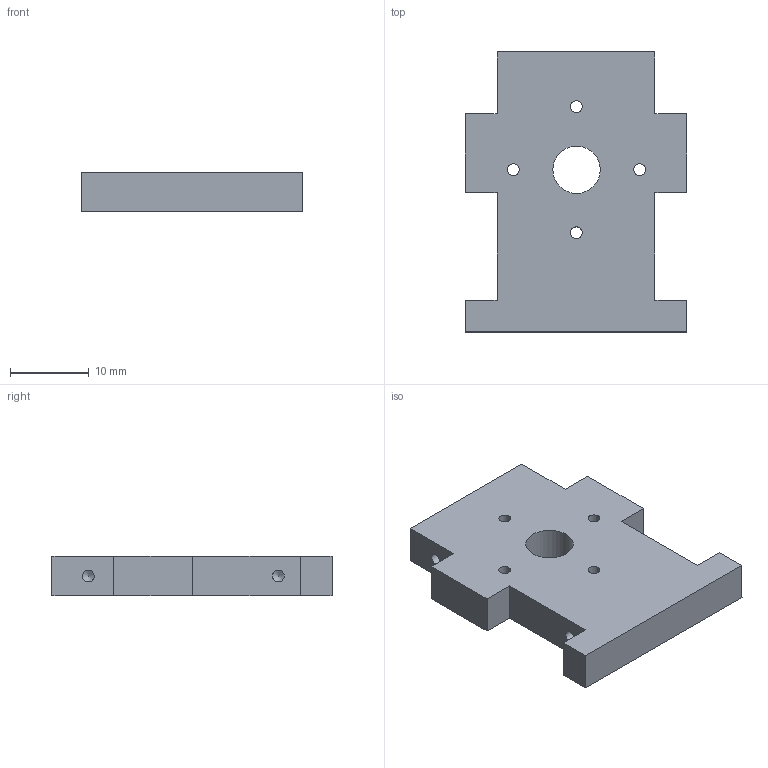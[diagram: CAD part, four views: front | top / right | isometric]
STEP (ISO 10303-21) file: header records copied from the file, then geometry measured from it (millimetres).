
FILE_DESCRIPTION(/* description */ (''),/* implementation_level */ '2;1');
FILE_NAME(/* name */ 'Neck_Baseplate.step',/* time_stamp */ '2025-09-04T19:09:19+01:00',/* author */ (''),/* organization */ (''),/* preprocessor_version */ 'ST-DEVELOPER v20.1',/* originating_system */ 'Autodesk Translation Framework v14.10.0.0',/* authorisation */ '');
FILE_SCHEMA (('AUTOMOTIVE_DESIGN { 1 0 10303 214 3 1 1 }'));
Length unit declared in the file: millimetre
Products named in the file (1): NeckBase
Bounding box: 28 x 35.47 x 5 mm (x, y, z)
Volume: 3894.3 mm3; surface area: 2571 mm2
Topology: 1 solids, 1 shells, 31 faces, 83 edges, 54 vertices
Faces by surface type: plane 18, cylinder 9, cone 4
Full cylindrical faces by diameter (mm): 1.5 x8, 6 x1
Entity records: 996 total; most frequent: CARTESIAN_POINT 165, DIRECTION 161, ORIENTED_EDGE 158, EDGE_CURVE 79, LINE 61, VECTOR 61, VERTEX_POINT 54, AXIS2_PLACEMENT_3D 50
